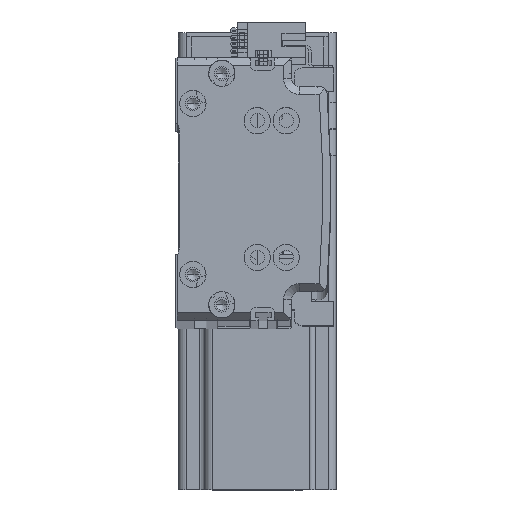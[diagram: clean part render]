
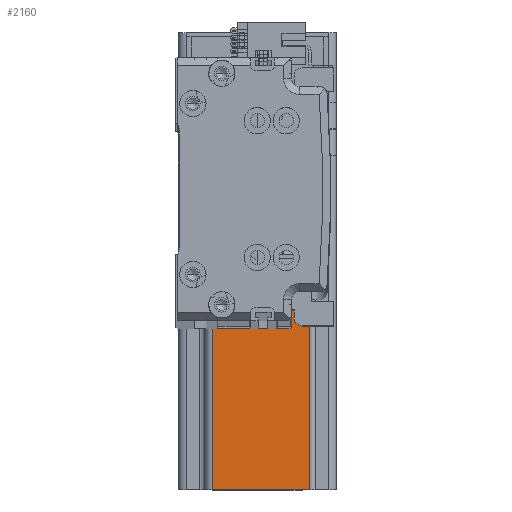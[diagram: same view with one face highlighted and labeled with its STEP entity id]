
A CAD part, top view. The second image highlights one B-rep face of the part: STEP entity #2160.
In plain terms, the highlighted planar face has unit normal (0, 0, 1) as drawn and (-1, 0, 0) by its records, which use the part's own axes.
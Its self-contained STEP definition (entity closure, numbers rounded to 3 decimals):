
#285 = VECTOR ( 'NONE', #12201, 1000. ) ;
#1928 = VERTEX_POINT ( 'NONE', #34375 ) ;
#2160 = ADVANCED_FACE ( 'NONE', ( #50889 ), #49718, .F. ) ;
#4176 = CARTESIAN_POINT ( 'NONE',  ( -30., -17., 137. ) ) ;
#5624 = ORIENTED_EDGE ( 'NONE', *, *, #15603, .T. ) ;
#6357 = VECTOR ( 'NONE', #28838, 1000. ) ;
#6851 = VERTEX_POINT ( 'NONE', #33164 ) ;
#7365 = CARTESIAN_POINT ( 'NONE',  ( -30., 27., 137. ) ) ;
#11412 = LINE ( 'NONE', #19049, #48775 ) ;
#11445 = CARTESIAN_POINT ( 'NONE',  ( -30., 27., 10. ) ) ;
#12201 = DIRECTION ( 'NONE',  ( 0., 0., -1. ) ) ;
#14282 = EDGE_CURVE ( 'NONE', #43232, #28787, #16449, .T. ) ;
#14756 = DIRECTION ( 'NONE',  ( 0., 0., 1. ) ) ;
#14967 = LINE ( 'NONE', #46658, #39362 ) ;
#15448 = VECTOR ( 'NONE', #42756, 1000. ) ;
#15603 = EDGE_CURVE ( 'NONE', #28787, #59221, #28392, .T. ) ;
#15719 = EDGE_CURVE ( 'NONE', #6851, #1928, #19285, .T. ) ;
#15924 = ORIENTED_EDGE ( 'NONE', *, *, #35498, .T. ) ;
#16449 = LINE ( 'NONE', #55905, #42393 ) ;
#19049 = CARTESIAN_POINT ( 'NONE',  ( -30., -17., 137. ) ) ;
#19285 = LINE ( 'NONE', #48268, #6357 ) ;
#21542 = VERTEX_POINT ( 'NONE', #57098 ) ;
#22272 = CARTESIAN_POINT ( 'NONE',  ( -30., -27., 0. ) ) ;
#22830 = DIRECTION ( 'NONE',  ( 0., -1., 0. ) ) ;
#23095 = CARTESIAN_POINT ( 'NONE',  ( -30., -27., 137. ) ) ;
#23141 = EDGE_CURVE ( 'NONE', #6851, #34813, #25654, .T. ) ;
#23472 = CARTESIAN_POINT ( 'NONE',  ( -30., -27., 10. ) ) ;
#23508 = EDGE_CURVE ( 'NONE', #21542, #59221, #14967, .T. ) ;
#24164 = VECTOR ( 'NONE', #43276, 1000. ) ;
#25568 = DIRECTION ( 'NONE',  ( 1., 0., 0. ) ) ;
#25654 = LINE ( 'NONE', #48162, #24164 ) ;
#26637 = DIRECTION ( 'NONE',  ( 0., -1., 0. ) ) ;
#28392 = LINE ( 'NONE', #23095, #15448 ) ;
#28787 = VERTEX_POINT ( 'NONE', #22272 ) ;
#28838 = DIRECTION ( 'NONE',  ( 0., 0., 1. ) ) ;
#31610 = AXIS2_PLACEMENT_3D ( 'NONE', #54849, #25568, #59710 ) ;
#33164 = CARTESIAN_POINT ( 'NONE',  ( -30., 20., 10. ) ) ;
#34375 = CARTESIAN_POINT ( 'NONE',  ( -30., 20., 137. ) ) ;
#34813 = VERTEX_POINT ( 'NONE', #11445 ) ;
#35498 = EDGE_CURVE ( 'NONE', #34813, #43232, #39143, .T. ) ;
#39143 = LINE ( 'NONE', #7365, #285 ) ;
#39362 = VECTOR ( 'NONE', #51493, 1000. ) ;
#40222 = ORIENTED_EDGE ( 'NONE', *, *, #23508, .F. ) ;
#41442 = VECTOR ( 'NONE', #22830, 1000. ) ;
#41565 = ORIENTED_EDGE ( 'NONE', *, *, #14282, .T. ) ;
#42393 = VECTOR ( 'NONE', #26637, 1000. ) ;
#42424 = EDGE_CURVE ( 'NONE', #1928, #55642, #55920, .T. ) ;
#42756 = DIRECTION ( 'NONE',  ( 0., 0., 1. ) ) ;
#43232 = VERTEX_POINT ( 'NONE', #43885 ) ;
#43276 = DIRECTION ( 'NONE',  ( 0., 1., 0. ) ) ;
#43885 = CARTESIAN_POINT ( 'NONE',  ( -30., 27., 0. ) ) ;
#46658 = CARTESIAN_POINT ( 'NONE',  ( -30., -30., 10. ) ) ;
#47753 = ORIENTED_EDGE ( 'NONE', *, *, #23141, .T. ) ;
#48162 = CARTESIAN_POINT ( 'NONE',  ( -30., 30., 10. ) ) ;
#48268 = CARTESIAN_POINT ( 'NONE',  ( -30., 20., 10. ) ) ;
#48775 = VECTOR ( 'NONE', #14756, 1000. ) ;
#49718 = PLANE ( 'NONE',  #31610 ) ;
#50889 = FACE_OUTER_BOUND ( 'NONE', #51576, .T. ) ;
#51076 = EDGE_CURVE ( 'NONE', #21542, #55642, #11412, .T. ) ;
#51493 = DIRECTION ( 'NONE',  ( 0., -1., 0. ) ) ;
#51576 = EDGE_LOOP ( 'NONE', ( #40222, #51644, #56924, #59081, #47753, #15924, #41565, #5624 ) ) ;
#51644 = ORIENTED_EDGE ( 'NONE', *, *, #51076, .T. ) ;
#54849 = CARTESIAN_POINT ( 'NONE',  ( -30., -30., 137. ) ) ;
#55642 = VERTEX_POINT ( 'NONE', #4176 ) ;
#55905 = CARTESIAN_POINT ( 'NONE',  ( -30., -30., 0. ) ) ;
#55920 = LINE ( 'NONE', #61832, #41442 ) ;
#56924 = ORIENTED_EDGE ( 'NONE', *, *, #42424, .F. ) ;
#57098 = CARTESIAN_POINT ( 'NONE',  ( -30., -17., 10. ) ) ;
#59081 = ORIENTED_EDGE ( 'NONE', *, *, #15719, .F. ) ;
#59221 = VERTEX_POINT ( 'NONE', #23472 ) ;
#59710 = DIRECTION ( 'NONE',  ( 0., 0., -1. ) ) ;
#61832 = CARTESIAN_POINT ( 'NONE',  ( -30., -30., 137. ) ) ;
